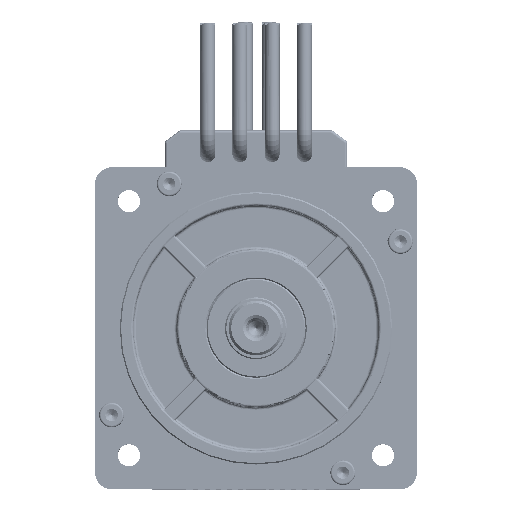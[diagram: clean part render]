
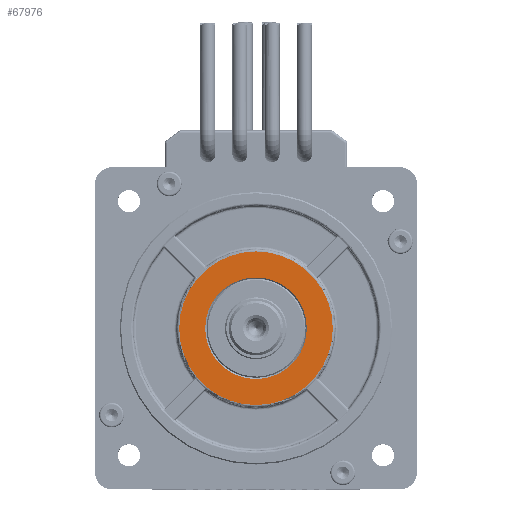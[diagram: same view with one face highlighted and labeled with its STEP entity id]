
A CAD part, top view. The second image highlights one B-rep face of the part: STEP entity #67976.
In plain terms, the highlighted planar face has unit normal (0, 0, 1).
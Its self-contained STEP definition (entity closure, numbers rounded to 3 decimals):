
#213 = AXIS2_PLACEMENT_3D ( 'NONE', #63314, #2902, #13045 ) ;
#2902 = DIRECTION ( 'NONE',  ( 0., 0., 1. ) ) ;
#3646 = ORIENTED_EDGE ( 'NONE', *, *, #79860, .T. ) ;
#7815 = CARTESIAN_POINT ( 'NONE',  ( 0., 0., 72. ) ) ;
#9202 = EDGE_CURVE ( 'NONE', #64553, #51456, #75720, .T. ) ;
#13045 = DIRECTION ( 'NONE',  ( 0., -1., 0. ) ) ;
#15431 = VERTEX_POINT ( 'NONE', #82947 ) ;
#20515 = AXIS2_PLACEMENT_3D ( 'NONE', #113727, #104421, #92987 ) ;
#21451 = CIRCLE ( 'NONE', #78597, 31. ) ;
#24584 = CARTESIAN_POINT ( 'NONE',  ( 0., 31., 72. ) ) ;
#30926 = AXIS2_PLACEMENT_3D ( 'NONE', #42861, #51692, #61368 ) ;
#31810 = CARTESIAN_POINT ( 'NONE',  ( 0., -31., 72. ) ) ;
#41249 = VERTEX_POINT ( 'NONE', #70705 ) ;
#41270 = AXIS2_PLACEMENT_3D ( 'NONE', #121167, #79182, #99936 ) ;
#42861 = CARTESIAN_POINT ( 'NONE',  ( 58.113, -58.113, 72. ) ) ;
#43184 = EDGE_LOOP ( 'NONE', ( #53056, #58036 ) ) ;
#51456 = VERTEX_POINT ( 'NONE', #31810 ) ;
#51692 = DIRECTION ( 'NONE',  ( 0., 0., -1. ) ) ;
#53056 = ORIENTED_EDGE ( 'NONE', *, *, #111095, .T. ) ;
#56491 = ORIENTED_EDGE ( 'NONE', *, *, #9202, .T. ) ;
#58036 = ORIENTED_EDGE ( 'NONE', *, *, #105985, .T. ) ;
#58888 = CIRCLE ( 'NONE', #20515, 20.5 ) ;
#59005 = DIRECTION ( 'NONE',  ( 0., -1., 0. ) ) ;
#60573 = CIRCLE ( 'NONE', #41270, 20.5 ) ;
#61368 = DIRECTION ( 'NONE',  ( 0., -1., 0. ) ) ;
#63314 = CARTESIAN_POINT ( 'NONE',  ( 0., 0., 72. ) ) ;
#64553 = VERTEX_POINT ( 'NONE', #24584 ) ;
#67976 = ADVANCED_FACE ( 'NONE', ( #84718, #110101 ), #82478, .F. ) ;
#70705 = CARTESIAN_POINT ( 'NONE',  ( 0., 20.5, 72. ) ) ;
#74950 = EDGE_LOOP ( 'NONE', ( #3646, #56491 ) ) ;
#75720 = CIRCLE ( 'NONE', #213, 31. ) ;
#78597 = AXIS2_PLACEMENT_3D ( 'NONE', #7815, #117760, #59005 ) ;
#79182 = DIRECTION ( 'NONE',  ( 0., 0., -1. ) ) ;
#79860 = EDGE_CURVE ( 'NONE', #51456, #64553, #21451, .T. ) ;
#82478 = PLANE ( 'NONE',  #30926 ) ;
#82947 = CARTESIAN_POINT ( 'NONE',  ( 0., -20.5, 72. ) ) ;
#84718 = FACE_OUTER_BOUND ( 'NONE', #74950, .T. ) ;
#92987 = DIRECTION ( 'NONE',  ( 0., -1., 0. ) ) ;
#99936 = DIRECTION ( 'NONE',  ( 0., -1., 0. ) ) ;
#104421 = DIRECTION ( 'NONE',  ( 0., 0., -1. ) ) ;
#105985 = EDGE_CURVE ( 'NONE', #15431, #41249, #60573, .T. ) ;
#110101 = FACE_BOUND ( 'NONE', #43184, .T. ) ;
#111095 = EDGE_CURVE ( 'NONE', #41249, #15431, #58888, .T. ) ;
#113727 = CARTESIAN_POINT ( 'NONE',  ( 0., 0., 72. ) ) ;
#117760 = DIRECTION ( 'NONE',  ( 0., 0., 1. ) ) ;
#121167 = CARTESIAN_POINT ( 'NONE',  ( 0., 0., 72. ) ) ;
